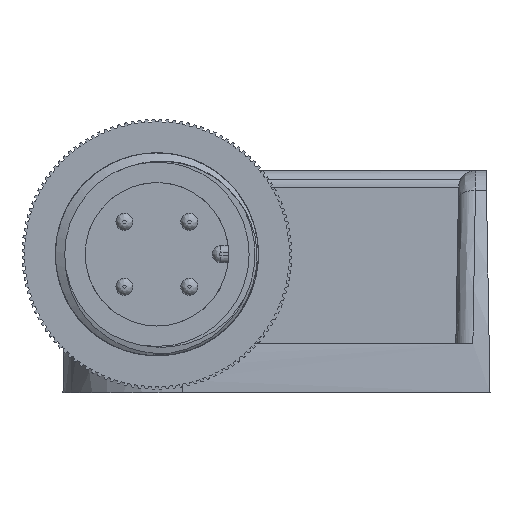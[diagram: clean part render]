
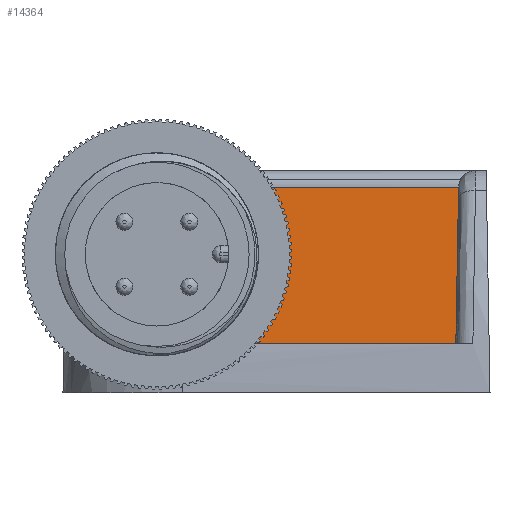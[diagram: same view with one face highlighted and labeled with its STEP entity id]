
A CAD part, left-side view. The second image highlights one B-rep face of the part: STEP entity #14364.
In plain terms, the highlighted planar face has unit normal (-1, 0, 0.018).
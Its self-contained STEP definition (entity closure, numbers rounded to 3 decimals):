
#18=ELLIPSE('',#15613,3.501,3.5);
#126=FACE_BOUND('',#2044,.T.);
#519=PLANE('',#15774);
#1270=FACE_OUTER_BOUND('',#2043,.T.);
#2043=EDGE_LOOP('',(#13248,#13249,#13250,#13251));
#2044=EDGE_LOOP('',(#13252));
#3507=LINE('',#26544,#4891);
#3519=LINE('',#26646,#4903);
#3520=LINE('',#26649,#4904);
#3521=LINE('',#26650,#4905);
#4891=VECTOR('',#19859,10.);
#4903=VECTOR('',#19921,10.);
#4904=VECTOR('',#19924,10.);
#4905=VECTOR('',#19925,10.);
#6716=VERTEX_POINT('',#25750);
#6921=VERTEX_POINT('',#26542);
#6922=VERTEX_POINT('',#26543);
#6935=VERTEX_POINT('',#26644);
#6936=VERTEX_POINT('',#26648);
#8719=EDGE_CURVE('',#6716,#6716,#18,.T.);
#9022=EDGE_CURVE('',#6921,#6922,#3507,.T.);
#9050=EDGE_CURVE('',#6922,#6935,#3519,.T.);
#9051=EDGE_CURVE('',#6935,#6936,#3520,.T.);
#9052=EDGE_CURVE('',#6936,#6921,#3521,.T.);
#13248=ORIENTED_EDGE('',*,*,#9022,.T.);
#13249=ORIENTED_EDGE('',*,*,#9050,.T.);
#13250=ORIENTED_EDGE('',*,*,#9051,.T.);
#13251=ORIENTED_EDGE('',*,*,#9052,.T.);
#13252=ORIENTED_EDGE('',*,*,#8719,.F.);
#14364=ADVANCED_FACE('',(#1270,#126),#519,.T.);
#15613=AXIS2_PLACEMENT_3D('',#25752,#19326,#19327);
#15774=AXIS2_PLACEMENT_3D('',#26647,#19922,#19923);
#19326=DIRECTION('center_axis',(-1.,0.,
0.017));
#19327=DIRECTION('ref_axis',(0.017,0.,1.));
#19859=DIRECTION('',(0.,1.,0.));
#19921=DIRECTION('',(-0.017,0.017,-1.));
#19922=DIRECTION('center_axis',(-1.,0.,
0.017));
#19923=DIRECTION('ref_axis',(0.,-1.,0.));
#19924=DIRECTION('',(0.,-1.,0.));
#19925=DIRECTION('',(0.017,-0.017,1.));
#25750=CARTESIAN_POINT('',(-33.97,19.5,4.6));
#25752=CARTESIAN_POINT('Origin',(-33.909,19.5,8.1));
#26542=CARTESIAN_POINT('',(-33.841,1.841,12.017));
#26543=CARTESIAN_POINT('',(-33.841,23.79,12.017));
#26544=CARTESIAN_POINT('',(-33.841,7.25,12.017));
#26644=CARTESIAN_POINT('',(-34.,23.95,2.9));
#26646=CARTESIAN_POINT('',(-34.024,23.973,1.546));
#26647=CARTESIAN_POINT('Origin',(-34.,2.,2.9));
#26648=CARTESIAN_POINT('',(-34.,2.,2.9));
#26649=CARTESIAN_POINT('',(-34.,26.,2.9));
#26650=CARTESIAN_POINT('',(-34.002,2.002,2.804));
